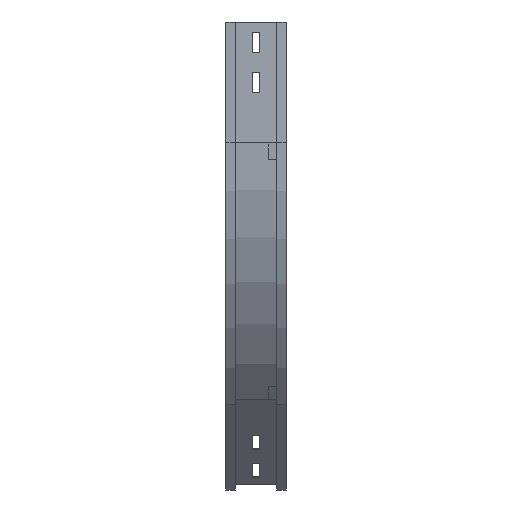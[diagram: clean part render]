
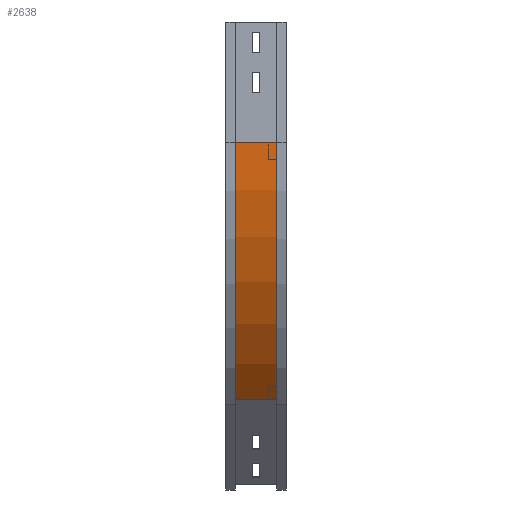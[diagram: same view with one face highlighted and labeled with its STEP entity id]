
A CAD part, left-side view. The second image highlights one B-rep face of the part: STEP entity #2638.
In plain terms, the highlighted cylindrical face has radius 450 mm (diameter 900 mm), a partial arc.
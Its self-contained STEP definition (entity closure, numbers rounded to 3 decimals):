
#39 = CARTESIAN_POINT ( 'NONE',  ( 9., 12., -150. ) ) ;
#92 = CIRCLE ( 'NONE', #259, 450. ) ;
#157 = LINE ( 'NONE', #2525, #2469 ) ;
#197 = VECTOR ( 'NONE', #1842, 1000. ) ;
#259 = AXIS2_PLACEMENT_3D ( 'NONE', #1275, #2072, #268 ) ;
#268 = DIRECTION ( 'NONE',  ( -1., 0., 0. ) ) ;
#446 = DIRECTION ( 'NONE',  ( 0., 0., -1. ) ) ;
#669 = DIRECTION ( 'NONE',  ( 0., -1., 0. ) ) ;
#670 = EDGE_CURVE ( 'NONE', #1116, #1874, #2614, .T. ) ;
#777 = ORIENTED_EDGE ( 'NONE', *, *, #3331, .T. ) ;
#1019 = EDGE_CURVE ( 'NONE', #1874, #2406, #92, .T. ) ;
#1064 = AXIS2_PLACEMENT_3D ( 'NONE', #2791, #1715, #446 ) ;
#1092 = CARTESIAN_POINT ( 'NONE',  ( 9., 12., -150. ) ) ;
#1116 = VERTEX_POINT ( 'NONE', #2686 ) ;
#1188 = ORIENTED_EDGE ( 'NONE', *, *, #3031, .T. ) ;
#1275 = CARTESIAN_POINT ( 'NONE',  ( 459., 12., -150. ) ) ;
#1277 = DIRECTION ( 'NONE',  ( -1., 0., 0. ) ) ;
#1715 = DIRECTION ( 'NONE',  ( 0., -1., 0. ) ) ;
#1771 = CYLINDRICAL_SURFACE ( 'NONE', #1064, 450. ) ;
#1842 = DIRECTION ( 'NONE',  ( 0., -1., 0. ) ) ;
#1874 = VERTEX_POINT ( 'NONE', #39 ) ;
#1956 = EDGE_LOOP ( 'NONE', ( #2331, #2955, #777, #1188 ) ) ;
#2072 = DIRECTION ( 'NONE',  ( 0., -1., 0. ) ) ;
#2084 = CARTESIAN_POINT ( 'NONE',  ( 140.802, 63., -468.198 ) ) ;
#2331 = ORIENTED_EDGE ( 'NONE', *, *, #1019, .F. ) ;
#2406 = VERTEX_POINT ( 'NONE', #3244 ) ;
#2469 = VECTOR ( 'NONE', #3014, 1000. ) ;
#2525 = CARTESIAN_POINT ( 'NONE',  ( 140.802, 12., -468.198 ) ) ;
#2614 = LINE ( 'NONE', #1092, #197 ) ;
#2638 = ADVANCED_FACE ( 'NONE', ( #3315 ), #1771, .T. ) ;
#2686 = CARTESIAN_POINT ( 'NONE',  ( 9., 63., -150. ) ) ;
#2715 = VERTEX_POINT ( 'NONE', #2084 ) ;
#2730 = CIRCLE ( 'NONE', #2853, 450. ) ;
#2791 = CARTESIAN_POINT ( 'NONE',  ( 459., 0., -150. ) ) ;
#2853 = AXIS2_PLACEMENT_3D ( 'NONE', #3089, #669, #1277 ) ;
#2955 = ORIENTED_EDGE ( 'NONE', *, *, #670, .F. ) ;
#3014 = DIRECTION ( 'NONE',  ( 0., -1., 0. ) ) ;
#3031 = EDGE_CURVE ( 'NONE', #2715, #2406, #157, .T. ) ;
#3089 = CARTESIAN_POINT ( 'NONE',  ( 459., 63., -150. ) ) ;
#3244 = CARTESIAN_POINT ( 'NONE',  ( 140.802, 12., -468.198 ) ) ;
#3315 = FACE_OUTER_BOUND ( 'NONE', #1956, .T. ) ;
#3331 = EDGE_CURVE ( 'NONE', #1116, #2715, #2730, .T. ) ;
